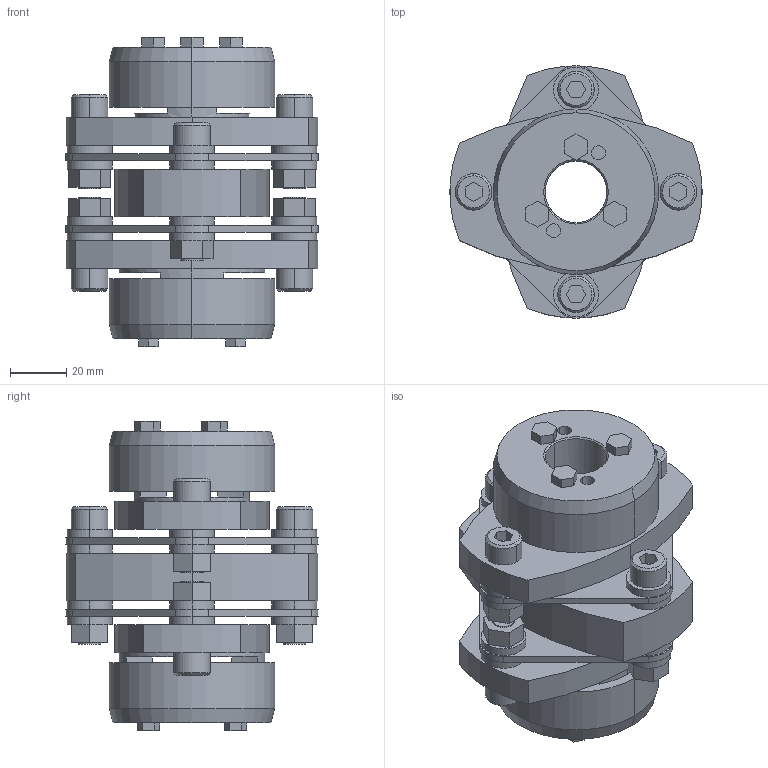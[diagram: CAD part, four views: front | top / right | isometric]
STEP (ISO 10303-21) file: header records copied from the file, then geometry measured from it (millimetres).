
FILE_DESCRIPTION((''),'2;1');
FILE_NAME('LCD-90T7-22×32.stp','2011-09-12T09:49:57',(''),(''),'AutoCAD STEP 2000i','AutoCAD 2000i',', , ');
FILE_SCHEMA(('CONFIG_CONTROL_DESIGN'));
Length unit declared in the file: millimetre
Products named in the file (8): LCD-90T7-19×32; 忣兜1; LC90T7-T032; LC90T7-T030; LC90T7-T025; LC90T7-T019-1; LC90T7-T019; LCD90-ITA
Assembly tree (7 placements, depth 2):
  LCD-90T7-19×32
    忣兜1
    LC90T7-T032
    LC90T7-T030
    LC90T7-T025
    LC90T7-T019-1
    LC90T7-T019
    LCD90-ITA
Bounding box: 90 x 89.94 x 110.3 mm (x, y, z)
Volume: 259799.5 mm3; surface area: 73034.8 mm2
Topology: 1 solids, 1 shells, 330 faces, 810 edges, 530 vertices
Faces by surface type: plane 186, cylinder 120, cone 24
Entity records: 10005 total; most frequent: DIRECTION 1772, CARTESIAN_POINT 1678, ORIENTED_EDGE 1620, EDGE_CURVE 810, AXIS2_PLACEMENT_3D 624, VERTEX_POINT 530, VECTOR 524, LINE 524
